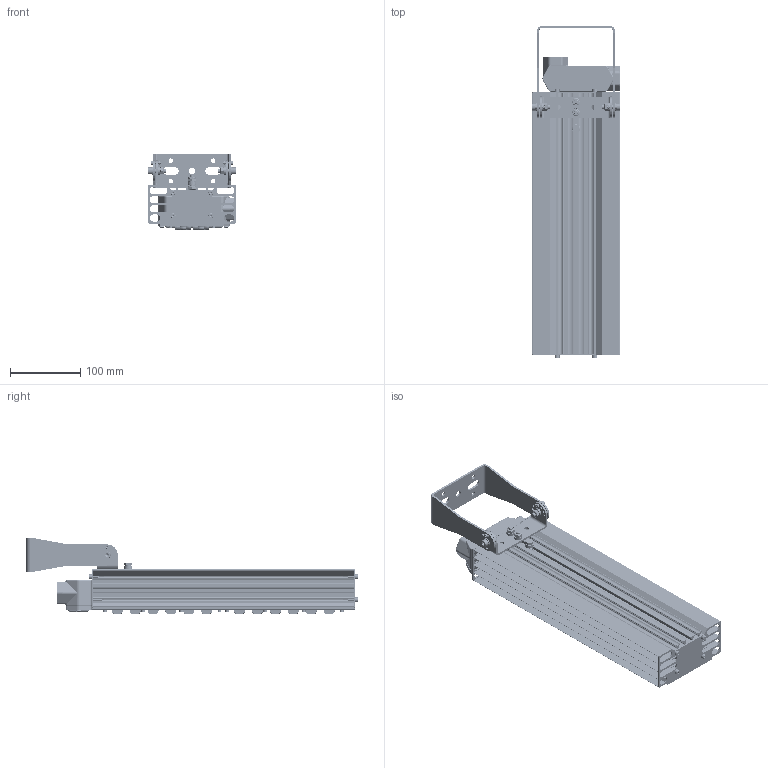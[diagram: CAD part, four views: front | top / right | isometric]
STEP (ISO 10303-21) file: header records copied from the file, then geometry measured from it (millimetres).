
FILE_DESCRIPTION((''),'2;1');
FILE_NAME('C:\Users\A.Yu.Kozyrkov\Desktop\Готовый\СГУ06-6600С_220AC_У.stp','2020-07-09T13:48:52',('A.Yu.Kozyrkov'),(''),'Autodesk Inventor 2012','Autodesk Inventor 2012','');
FILE_SCHEMA(('AUTOMOTIVE_DESIGN { 1 0 10303 214 1 1 1 1 }'));
Length unit declared in the file: millimetre
Products named in the file (1): СГУ06-6600С_220AC_У
Bounding box: 125.2 x 471 x 107.72 mm (x, y, z)
Surface area: 803323.4 mm2 (no closed solid volume)
Topology: 0 solids, 77 shells, 5076 faces, 13136 edges, 8449 vertices
Faces by surface type: plane 1928, cylinder 1174, bspline 638, torus 562, cone 538, revolution 194, sphere 42
Full cylindrical faces by diameter (mm): 0.6 x8, 2.459 x2, 2.5 x24, 3 x18, 3.2 x47, 3.242 x1, 3.5 x22, 3.621 x2, 3.85 x4, 3.9 x2, 4 x8, 4.255 x16, 4.5 x16, 4.917 x5, 5.026 x2, 5.459 x3, 5.5 x18, 5.9 x2, 6 x5, 6.4 x8, 6.5 x5, 7 x16, 7.2 x2, 7.3 x2, 8.7 x3, 9 x1, 9.4 x2, 10 x27, 12 x8, 24.1 x1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
Entity records: 214914 total; most frequent: CARTESIAN_POINT 94062, ORIENTED_EDGE 24328, DIRECTION 22146, EDGE_CURVE 12164, AXIS2_PLACEMENT_3D 8469, VERTEX_POINT 8184, EDGE_LOOP 6370, FACE_OUTER_BOUND 5052
